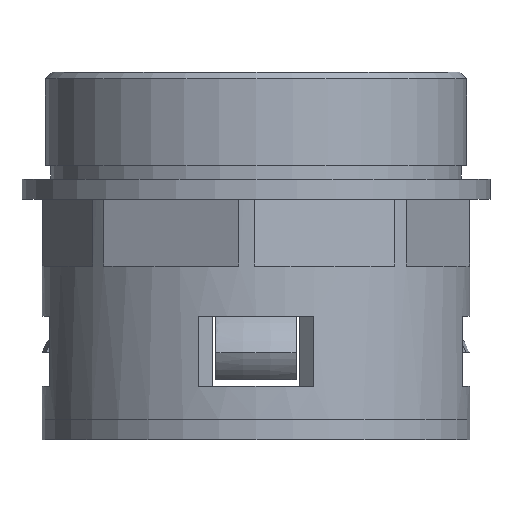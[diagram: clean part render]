
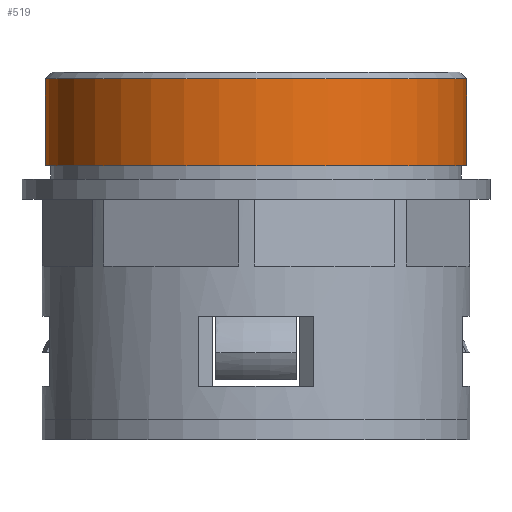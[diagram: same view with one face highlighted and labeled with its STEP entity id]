
A CAD part, front view. The second image highlights one B-rep face of the part: STEP entity #519.
In plain terms, the highlighted cylindrical face has radius 31.5 mm (diameter 63 mm), a partial arc.
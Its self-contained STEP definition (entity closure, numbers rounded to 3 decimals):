
#453 = VERTEX_POINT ( 'NONE', #1377 ) ;
#454 = VERTEX_POINT ( 'NONE', #1364 ) ;
#455 = EDGE_CURVE ( 'NONE', #2778, #454, #847, .T. ) ;
#472 = EDGE_CURVE ( 'NONE', #2810, #453, #1439, .T. ) ;
#519 = ADVANCED_FACE ( 'NONE', ( #1493 ), #1487, .T. ) ;
#527 = ORIENTED_EDGE ( 'NONE', *, *, #455, .F. ) ;
#529 = EDGE_LOOP ( 'NONE', ( #527, #5822, #5832, #543 ) ) ;
#541 = EDGE_CURVE ( 'NONE', #2778, #2810, #1576, .T. ) ;
#543 = ORIENTED_EDGE ( 'NONE', *, *, #549, .T. ) ;
#549 = EDGE_CURVE ( 'NONE', #453, #454, #1566, .T. ) ;
#846 = CARTESIAN_POINT ( 'NONE',  ( 31.5, 0., 16. ) ) ;
#847 = LINE ( 'NONE', #846, #1116 ) ;
#1107 = DIRECTION ( 'NONE',  ( 0., 0., -1. ) ) ;
#1116 = VECTOR ( 'NONE', #1107, 1000. ) ;
#1364 = CARTESIAN_POINT ( 'NONE',  ( 31.5, 0., 2. ) ) ;
#1377 = CARTESIAN_POINT ( 'NONE',  ( -31.5, 0., 2. ) ) ;
#1432 = DIRECTION ( 'NONE',  ( 0., 0., -1. ) ) ;
#1439 = LINE ( 'NONE', #1444, #1443 ) ;
#1443 = VECTOR ( 'NONE', #1432, 1000. ) ;
#1444 = CARTESIAN_POINT ( 'NONE',  ( -31.5, 0., 16. ) ) ;
#1487 = CYLINDRICAL_SURFACE ( 'NONE', #1498, 31.5 ) ;
#1491 = DIRECTION ( 'NONE',  ( -1., 0., 0. ) ) ;
#1493 = FACE_OUTER_BOUND ( 'NONE', #529, .T. ) ;
#1498 = AXIS2_PLACEMENT_3D ( 'NONE', #1507, #1503, #1491 ) ;
#1503 = DIRECTION ( 'NONE',  ( 0., 0., -1. ) ) ;
#1507 = CARTESIAN_POINT ( 'NONE',  ( 0., 0., 16. ) ) ;
#1524 = AXIS2_PLACEMENT_3D ( 'NONE', #1574, #1573, #1572 ) ;
#1555 = DIRECTION ( 'NONE',  ( 1., 0., 0. ) ) ;
#1556 = DIRECTION ( 'NONE',  ( 0., 0., 1. ) ) ;
#1557 = CARTESIAN_POINT ( 'NONE',  ( 0., 0., 2. ) ) ;
#1558 = AXIS2_PLACEMENT_3D ( 'NONE', #1557, #1556, #1555 ) ;
#1566 = CIRCLE ( 'NONE', #1558, 31.5 ) ;
#1572 = DIRECTION ( 'NONE',  ( 1., 0., 0. ) ) ;
#1573 = DIRECTION ( 'NONE',  ( 0., 0., -1. ) ) ;
#1574 = CARTESIAN_POINT ( 'NONE',  ( 0., 0., 15. ) ) ;
#1576 = CIRCLE ( 'NONE', #1524, 31.5 ) ;
#2303 = CARTESIAN_POINT ( 'NONE',  ( 31.5, 0., 15. ) ) ;
#2410 = CARTESIAN_POINT ( 'NONE',  ( -31.5, 0., 15. ) ) ;
#2778 = VERTEX_POINT ( 'NONE', #2303 ) ;
#2810 = VERTEX_POINT ( 'NONE', #2410 ) ;
#5822 = ORIENTED_EDGE ( 'NONE', *, *, #541, .T. ) ;
#5832 = ORIENTED_EDGE ( 'NONE', *, *, #472, .T. ) ;
